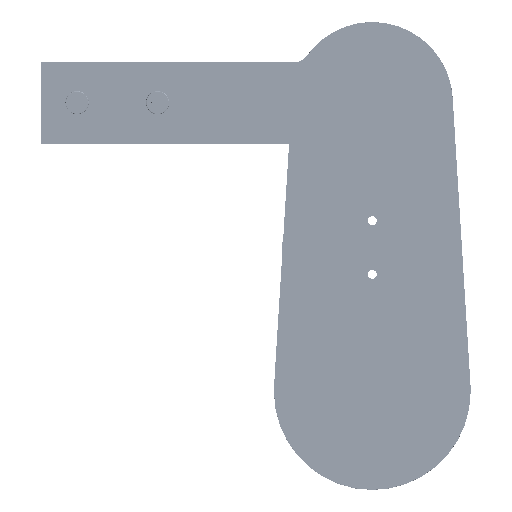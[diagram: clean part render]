
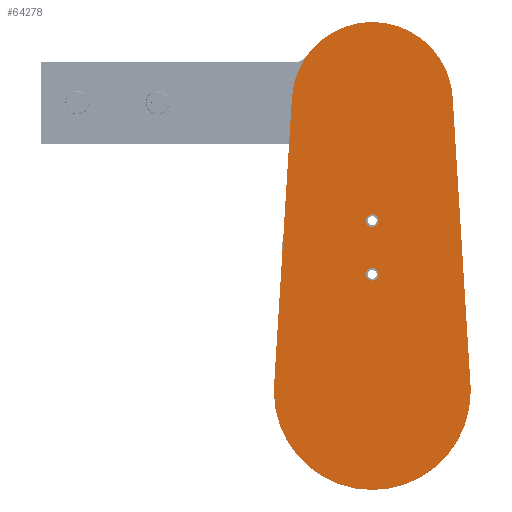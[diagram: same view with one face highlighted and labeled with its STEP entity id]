
A CAD part, top view. The second image highlights one B-rep face of the part: STEP entity #64278.
In plain terms, the highlighted planar face has unit normal (0, 0, 1) as drawn and (0, 0, -1) by its records, which use the part's own axes.
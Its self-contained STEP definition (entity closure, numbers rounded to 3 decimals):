
#1739 = EDGE_CURVE ( 'NONE', #73486, #73487, #41027, .T. ) ;
#1743 = EDGE_CURVE ( 'NONE', #73490, #73491, #41044, .T. ) ;
#1756 = EDGE_CURVE ( 'NONE', #73506, #73507, #41109, .T. ) ;
#1760 = EDGE_CURVE ( 'NONE', #73509, #73506, #41123, .T. ) ;
#1769 = EDGE_CURVE ( 'NONE', #73511, #73510, #41167, .T. ) ;
#1773 = EDGE_CURVE ( 'NONE', #73510, #73512, #41182, .T. ) ;
#1777 = EDGE_CURVE ( 'NONE', #73512, #73509, #41206, .T. ) ;
#1778 = EDGE_CURVE ( 'NONE', #73507, #73511, #41209, .T. ) ;
#1780 = EDGE_CURVE ( 'NONE', #73487, #73486, #41217, .T. ) ;
#1781 = EDGE_CURVE ( 'NONE', #73491, #73490, #41225, .T. ) ;
#14015 = AXIS2_PLACEMENT_3D ( 'NONE', #78536, #78537, #78538 ) ;
#14019 = AXIS2_PLACEMENT_3D ( 'NONE', #78546, #78547, #78548 ) ;
#14034 = AXIS2_PLACEMENT_3D ( 'NONE', #78578, #78579, #78580 ) ;
#14038 = AXIS2_PLACEMENT_3D ( 'NONE', #78587, #78588, #78589 ) ;
#14053 = AXIS2_PLACEMENT_3D ( 'NONE', #78613, #78614, #78615 ) ;
#14060 = AXIS2_PLACEMENT_3D ( 'NONE', #78631, #78632, #78633 ) ;
#14062 = AXIS2_PLACEMENT_3D ( 'NONE', #78638, #78639, #78640 ) ;
#14064 = AXIS2_PLACEMENT_3D ( 'NONE', #78642, #78643, #78644 ) ;
#35104 = AXIS2_PLACEMENT_3D ( 'NONE', #41786, #41782, #41793 ) ;
#41027 = CIRCLE ( 'NONE', #14015, 3.5 ) ;
#41044 = CIRCLE ( 'NONE', #14019, 3.5 ) ;
#41109 = CIRCLE ( 'NONE', #14034, 55. ) ;
#41123 = CIRCLE ( 'NONE', #14038, 55. ) ;
#41167 = CIRCLE ( 'NONE', #14053, 45. ) ;
#41182 = LINE ( 'NONE', #78621, #41191 ) ;
#41191 = VECTOR ( 'NONE', #78622, 1000. ) ;
#41206 = CIRCLE ( 'NONE', #14060, 55. ) ;
#41209 = LINE ( 'NONE', #78626, #41215 ) ;
#41215 = VECTOR ( 'NONE', #78627, 1000. ) ;
#41217 = CIRCLE ( 'NONE', #14062, 3.5 ) ;
#41225 = CIRCLE ( 'NONE', #14064, 3.5 ) ;
#41782 = DIRECTION ( 'NONE',  ( 0., 0., 1. ) ) ;
#41786 = CARTESIAN_POINT ( 'NONE',  ( 0., 161.5, 0. ) ) ;
#41790 = PLANE ( 'NONE',  #35104 ) ;
#41793 = DIRECTION ( 'NONE',  ( 1., 0., 0. ) ) ;
#43187 = FACE_OUTER_BOUND ( 'NONE', #66700, .T. ) ;
#43191 = FACE_BOUND ( 'NONE', #66686, .T. ) ;
#43195 = FACE_BOUND ( 'NONE', #66702, .T. ) ;
#64278 = ADVANCED_FACE ( 'NONE', ( #43191, #43195, #43187 ), #41790, .F. ) ;
#66686 = EDGE_LOOP ( 'NONE', ( #79897, #79898 ) ) ;
#66700 = EDGE_LOOP ( 'NONE', ( #79901, #79902, #79903, #79904, #79905, #79906 ) ) ;
#66702 = EDGE_LOOP ( 'NONE', ( #79899, #79900 ) ) ;
#73486 = VERTEX_POINT ( 'NONE', #76198 ) ;
#73487 = VERTEX_POINT ( 'NONE', #76199 ) ;
#73490 = VERTEX_POINT ( 'NONE', #76202 ) ;
#73491 = VERTEX_POINT ( 'NONE', #76203 ) ;
#73506 = VERTEX_POINT ( 'NONE', #76218 ) ;
#73507 = VERTEX_POINT ( 'NONE', #76219 ) ;
#73509 = VERTEX_POINT ( 'NONE', #76221 ) ;
#73510 = VERTEX_POINT ( 'NONE', #76222 ) ;
#73511 = VERTEX_POINT ( 'NONE', #76223 ) ;
#73512 = VERTEX_POINT ( 'NONE', #76224 ) ;
#76198 = CARTESIAN_POINT ( 'NONE',  ( 3.5, 95.5, 0. ) ) ;
#76199 = CARTESIAN_POINT ( 'NONE',  ( -3.5, 95.5, 0. ) ) ;
#76202 = CARTESIAN_POINT ( 'NONE',  ( 3.5, 65.5, 0. ) ) ;
#76203 = CARTESIAN_POINT ( 'NONE',  ( -3.5, 65.5, 0. ) ) ;
#76218 = CARTESIAN_POINT ( 'NONE',  ( 55., 0., 0. ) ) ;
#76219 = CARTESIAN_POINT ( 'NONE',  ( 54.894, 3.406, 0. ) ) ;
#76221 = CARTESIAN_POINT ( 'NONE',  ( -55., 0., 0. ) ) ;
#76222 = CARTESIAN_POINT ( 'NONE',  ( -44.914, 164.286, 0. ) ) ;
#76223 = CARTESIAN_POINT ( 'NONE',  ( 44.914, 164.286, 0. ) ) ;
#76224 = CARTESIAN_POINT ( 'NONE',  ( -54.894, 3.406, 0. ) ) ;
#78536 = CARTESIAN_POINT ( 'NONE',  ( 0., 95.5, 0. ) ) ;
#78537 = DIRECTION ( 'NONE',  ( 0., 0., -1. ) ) ;
#78538 = DIRECTION ( 'NONE',  ( 1., 0., 0. ) ) ;
#78546 = CARTESIAN_POINT ( 'NONE',  ( 0., 65.5, 0. ) ) ;
#78547 = DIRECTION ( 'NONE',  ( 0., 0., -1. ) ) ;
#78548 = DIRECTION ( 'NONE',  ( 1., 0., 0. ) ) ;
#78578 = CARTESIAN_POINT ( 'NONE',  ( 0., 0., 0. ) ) ;
#78579 = DIRECTION ( 'NONE',  ( 0., 0., 1. ) ) ;
#78580 = DIRECTION ( 'NONE',  ( 1., 0., 0. ) ) ;
#78587 = CARTESIAN_POINT ( 'NONE',  ( 0., 0., 0. ) ) ;
#78588 = DIRECTION ( 'NONE',  ( 0., 0., 1. ) ) ;
#78589 = DIRECTION ( 'NONE',  ( 1., 0., 0. ) ) ;
#78613 = CARTESIAN_POINT ( 'NONE',  ( 0., 161.5, 0. ) ) ;
#78614 = DIRECTION ( 'NONE',  ( 0., 0., 1. ) ) ;
#78615 = DIRECTION ( 'NONE',  ( 1., 0., 0. ) ) ;
#78621 = CARTESIAN_POINT ( 'NONE',  ( -44.914, 164.286, 0. ) ) ;
#78622 = DIRECTION ( 'NONE',  ( -0.062, -0.998, 0. ) ) ;
#78626 = CARTESIAN_POINT ( 'NONE',  ( 44.914, 164.286, 0. ) ) ;
#78627 = DIRECTION ( 'NONE',  ( -0.062, 0.998, 0. ) ) ;
#78631 = CARTESIAN_POINT ( 'NONE',  ( 0., 0., 0. ) ) ;
#78632 = DIRECTION ( 'NONE',  ( 0., 0., 1. ) ) ;
#78633 = DIRECTION ( 'NONE',  ( 1., 0., 0. ) ) ;
#78638 = CARTESIAN_POINT ( 'NONE',  ( 0., 95.5, 0. ) ) ;
#78639 = DIRECTION ( 'NONE',  ( 0., 0., -1. ) ) ;
#78640 = DIRECTION ( 'NONE',  ( 1., 0., 0. ) ) ;
#78642 = CARTESIAN_POINT ( 'NONE',  ( 0., 65.5, 0. ) ) ;
#78643 = DIRECTION ( 'NONE',  ( 0., 0., -1. ) ) ;
#78644 = DIRECTION ( 'NONE',  ( 1., 0., 0. ) ) ;
#79897 = ORIENTED_EDGE ( 'NONE', *, *, #1739, .F. ) ;
#79898 = ORIENTED_EDGE ( 'NONE', *, *, #1780, .F. ) ;
#79899 = ORIENTED_EDGE ( 'NONE', *, *, #1743, .F. ) ;
#79900 = ORIENTED_EDGE ( 'NONE', *, *, #1781, .F. ) ;
#79901 = ORIENTED_EDGE ( 'NONE', *, *, #1769, .F. ) ;
#79902 = ORIENTED_EDGE ( 'NONE', *, *, #1778, .F. ) ;
#79903 = ORIENTED_EDGE ( 'NONE', *, *, #1756, .F. ) ;
#79904 = ORIENTED_EDGE ( 'NONE', *, *, #1760, .F. ) ;
#79905 = ORIENTED_EDGE ( 'NONE', *, *, #1777, .F. ) ;
#79906 = ORIENTED_EDGE ( 'NONE', *, *, #1773, .F. ) ;
